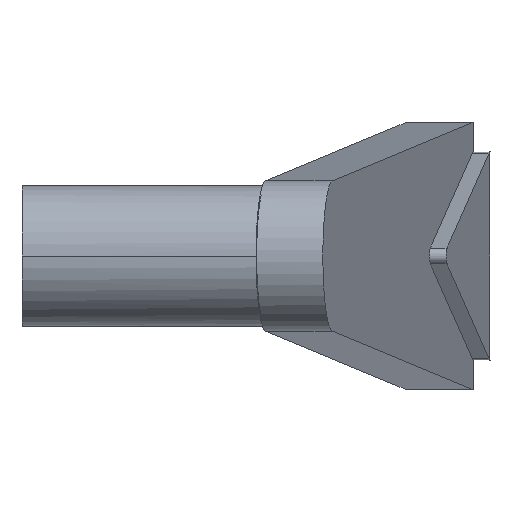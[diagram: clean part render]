
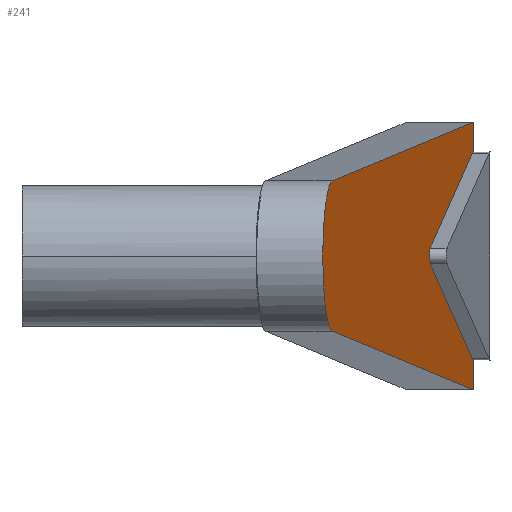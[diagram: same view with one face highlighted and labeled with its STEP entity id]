
A CAD part, left-side view. The second image highlights one B-rep face of the part: STEP entity #241.
In plain terms, the highlighted planar face has unit normal (-0.131, -0.991, 0).
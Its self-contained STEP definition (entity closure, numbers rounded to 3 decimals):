
#229 = EDGE_CURVE( '', #313, #585, #643, .T. );
#233 = VERTEX_POINT( '', #648 );
#241 = ADVANCED_FACE( '', ( #656 ), #657, .T. );
#247 = VERTEX_POINT( '', #663 );
#249 = EDGE_CURVE( '', #435, #459, #665, .T. );
#269 = EDGE_CURVE( '', #451, #393, #686, .T. );
#313 = VERTEX_POINT( '', #738 );
#319 = EDGE_CURVE( '', #585, #431, #744, .T. );
#371 = VERTEX_POINT( '', #801 );
#373 = EDGE_CURVE( '', #371, #247, #803, .T. );
#375 = EDGE_CURVE( '', #481, #393, #805, .T. );
#393 = VERTEX_POINT( '', #827 );
#431 = VERTEX_POINT( '', #873 );
#435 = VERTEX_POINT( '', #877 );
#451 = VERTEX_POINT( '', #894 );
#459 = VERTEX_POINT( '', #903 );
#481 = VERTEX_POINT( '', #927 );
#491 = VERTEX_POINT( '', #939 );
#493 = EDGE_CURVE( '', #459, #233, #941, .T. );
#551 = EDGE_CURVE( '', #431, #247, #1004, .T. );
#565 = EDGE_CURVE( '', #491, #313, #1019, .T. );
#585 = VERTEX_POINT( '', #1040 );
#603 = EDGE_CURVE( '', #481, #491, #1058, .T. );
#607 = EDGE_CURVE( '', #233, #451, #1062, .T. );
#619 = EDGE_CURVE( '', #371, #435, #1075, .T. );
#643 = ELLIPSE( '', #1096, 0.504, 0.5 );
#648 = CARTESIAN_POINT( '', ( -0.246, -18.559, -4.493 ) );
#656 = FACE_OUTER_BOUND( '', #1113, .T. );
#657 = PLANE( '', #1114 );
#663 = CARTESIAN_POINT( '', ( 63.739, -26.983, 6.233 ) );
#665 = LINE( '', #1125, #1126 );
#686 = ELLIPSE( '', #1158, 6.052, 6. );
#738 = CARTESIAN_POINT( '', ( 44.351, -24.43, -0.477 ) );
#744 = LINE( '', #1228, #1229 );
#801 = CARTESIAN_POINT( '', ( 63.739, -26.983, 7.994 ) );
#803 = LINE( '', #1317, #1318 );
#805 = LINE( '', #1321, #1322 );
#827 = CARTESIAN_POINT( '', ( 63.739, -26.983, -7.994 ) );
#873 = CARTESIAN_POINT( '', ( 63.403, -26.939, 6.159 ) );
#877 = CARTESIAN_POINT( '', ( 63.672, -26.974, 7.991 ) );
#894 = CARTESIAN_POINT( '', ( 63.672, -26.974, -7.991 ) );
#903 = CARTESIAN_POINT( '', ( -0.246, -18.559, 4.493 ) );
#927 = CARTESIAN_POINT( '', ( 63.739, -26.983, -6.233 ) );
#939 = CARTESIAN_POINT( '', ( 63.403, -26.939, -6.159 ) );
#941 = ELLIPSE( '', #1495, 4.539, 4.5 );
#1004 = ELLIPSE( '', #1580, 2.017, 2. );
#1019 = LINE( '', #1600, #1601 );
#1040 = CARTESIAN_POINT( '', ( 44.351, -24.43, 0.477 ) );
#1058 = ELLIPSE( '', #1656, 2.017, 2. );
#1062 = LINE( '', #1663, #1664 );
#1075 = ELLIPSE( '', #1684, 6.052, 6. );
#1096 = AXIS2_PLACEMENT_3D( '', #1686, #1687, #1688 );
#1113 = EDGE_LOOP( '', ( #1700, #1701, #1702, #1703, #1704, #1705, #1706, #1707, #1708, #1709, #1710, #1711 ) );
#1114 = AXIS2_PLACEMENT_3D( '', #1712, #1713, #1714 );
#1125 = CARTESIAN_POINT( '', ( 21.548, -21.428, 5.686 ) );
#1126 = VECTOR( '', #1716, 1. );
#1158 = AXIS2_PLACEMENT_3D( '', #1736, #1737, #1738 );
#1228 = CARTESIAN_POINT( '', ( 23.028, -21.623, -5.882 ) );
#1229 = VECTOR( '', #1825, 1. );
#1317 = CARTESIAN_POINT( '', ( 63.739, -26.983, 10. ) );
#1318 = VECTOR( '', #1892, 1. );
#1321 = CARTESIAN_POINT( '', ( 63.739, -26.983, 10. ) );
#1322 = VECTOR( '', #1893, 1. );
#1495 = AXIS2_PLACEMENT_3D( '', #2068, #2069, #2070 );
#1580 = AXIS2_PLACEMENT_3D( '', #2132, #2133, #2134 );
#1600 = CARTESIAN_POINT( '', ( 29.709, -22.503, 3.889 ) );
#1601 = VECTOR( '', #2155, 1. );
#1656 = AXIS2_PLACEMENT_3D( '', #2186, #2187, #2188 );
#1663 = CARTESIAN_POINT( '', ( -10.404, -17.222, -3.937 ) );
#1664 = VECTOR( '', #2190, 1. );
#1684 = AXIS2_PLACEMENT_3D( '', #2208, #2209, #2210 );
#1686 = CARTESIAN_POINT( '', ( 44.5, -24.45, 0. ) );
#1687 = DIRECTION( '', ( 0.131, 0.991, 0. ) );
#1688 = DIRECTION( '', ( -0.991, 0.131, 0. ) );
#1700 = ORIENTED_EDGE( '', *, *, #607, .T. );
#1701 = ORIENTED_EDGE( '', *, *, #269, .T. );
#1702 = ORIENTED_EDGE( '', *, *, #375, .F. );
#1703 = ORIENTED_EDGE( '', *, *, #603, .T. );
#1704 = ORIENTED_EDGE( '', *, *, #565, .T. );
#1705 = ORIENTED_EDGE( '', *, *, #229, .T. );
#1706 = ORIENTED_EDGE( '', *, *, #319, .T. );
#1707 = ORIENTED_EDGE( '', *, *, #551, .T. );
#1708 = ORIENTED_EDGE( '', *, *, #373, .F. );
#1709 = ORIENTED_EDGE( '', *, *, #619, .T. );
#1710 = ORIENTED_EDGE( '', *, *, #249, .T. );
#1711 = ORIENTED_EDGE( '', *, *, #493, .T. );
#1712 = CARTESIAN_POINT( '', ( -4.5, -17.999, 10. ) );
#1713 = DIRECTION( '', ( -0.131, -0.991, 0. ) );
#1714 = DIRECTION( '', ( -0.991, 0.131, 0. ) );
#1716 = DIRECTION( '', ( -0.99, 0.13, -0.054 ) );
#1736 = CARTESIAN_POINT( '', ( 64., -27.017, -2. ) );
#1737 = DIRECTION( '', ( -0.131, -0.991, 0. ) );
#1738 = DIRECTION( '', ( 0.991, -0.131, 0. ) );
#1825 = DIRECTION( '', ( 0.951, -0.125, 0.284 ) );
#1892 = DIRECTION( '', ( 0., 0., -1. ) );
#1893 = DIRECTION( '', ( 0., 0., -1. ) );
#2068 = CARTESIAN_POINT( '', ( 0., -18.591, 0. ) );
#2069 = DIRECTION( '', ( -0.131, -0.991, 0. ) );
#2070 = DIRECTION( '', ( -0.991, 0.131, 0. ) );
#2132 = CARTESIAN_POINT( '', ( 64., -27.017, 4.25 ) );
#2133 = DIRECTION( '', ( 0.131, 0.991, 0. ) );
#2134 = DIRECTION( '', ( -0.991, 0.131, 0. ) );
#2155 = DIRECTION( '', ( -0.951, 0.125, 0.284 ) );
#2186 = CARTESIAN_POINT( '', ( 64., -27.017, -4.25 ) );
#2187 = DIRECTION( '', ( 0.131, 0.991, 0. ) );
#2188 = DIRECTION( '', ( 0.991, -0.131, 0. ) );
#2190 = DIRECTION( '', ( 0.99, -0.13, -0.054 ) );
#2208 = CARTESIAN_POINT( '', ( 64., -27.017, 2. ) );
#2209 = DIRECTION( '', ( -0.131, -0.991, 0. ) );
#2210 = DIRECTION( '', ( -0.991, 0.131, 0. ) );
